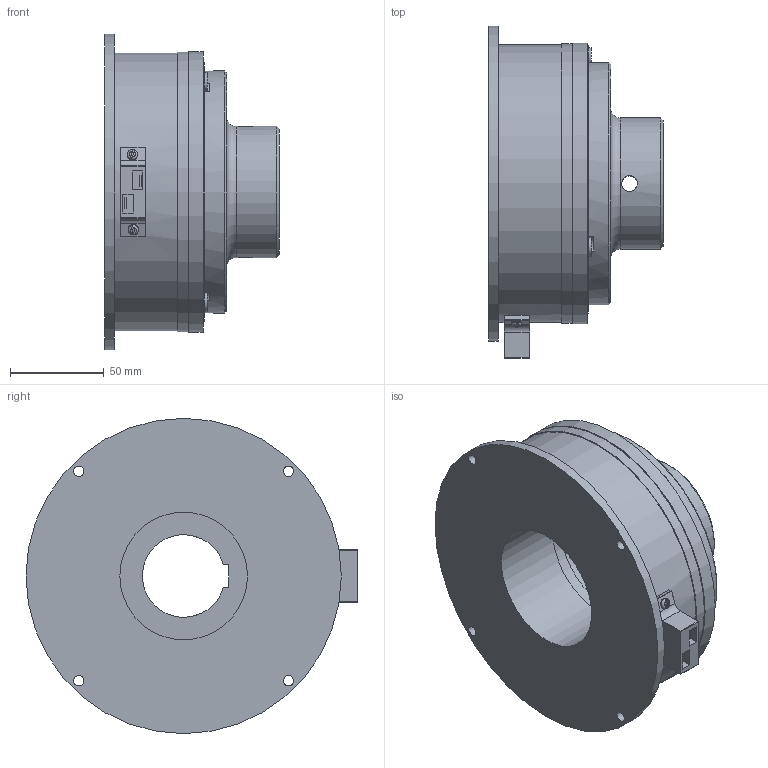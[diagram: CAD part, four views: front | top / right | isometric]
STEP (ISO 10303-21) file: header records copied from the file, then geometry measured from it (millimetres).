
FILE_DESCRIPTION(/* description */ (''),/* implementation_level */ '2;1');
FILE_NAME(/* name */ 'X:\INVENTOR\DISEGNI\08_Freni_Friz_Elettmag_Monodisco\08_28 EMFL_DF\EMFL_DF STEP\08_28_150_12 EMFL150_DF-C-ME_Con@STEP.stp',/* time_stamp */ '2018-09-07T08:34:50+02:00',/* author */ ('stefano'),/* organization */ (''),/* preprocessor_version */ 'ST-DEVELOPER v17',/* originating_system */ 'Autodesk Inventor 2018',/* authorisation */ '');
FILE_SCHEMA (('AUTOMOTIVE_DESIGN { 1 0 10303 214 3 1 1 }'));
Length unit declared in the file: millimetre
Products named in the file (1): 08_28_150_12 EMFL150_DF-C-ME - Spina_Substitute_1
Bounding box: 93 x 176.89 x 168 mm (x, y, z)
Volume: 778985.1 mm3; surface area: 179684.4 mm2
Topology: 2 solids, 2 shells, 448 faces, 1226 edges, 789 vertices
Faces by surface type: cylinder 234, plane 141, torus 35, sphere 20, cone 18
Full cylindrical faces by diameter (mm): 5.5 x4, 5.6 x2, 6 x1, 6.1 x9, 6.647 x3, 7.5 x3, 8 x3, 8.1 x3, 8.376 x2, 10 x9, 11 x3, 13 x3, 68 x2, 70 x1, 74 x1, 95 x1, 96 x2, 126 x2, 129 x1, 132 x1, 148 x1, 149 x1, 149.5 x1, 168 x1
Entity records: 15397 total; most frequent: CARTESIAN_POINT 2950, DIRECTION 2766, ORIENTED_EDGE 2406, EDGE_CURVE 1203, AXIS2_PLACEMENT_3D 1172, VERTEX_POINT 789, CIRCLE 723, EDGE_LOOP 538
